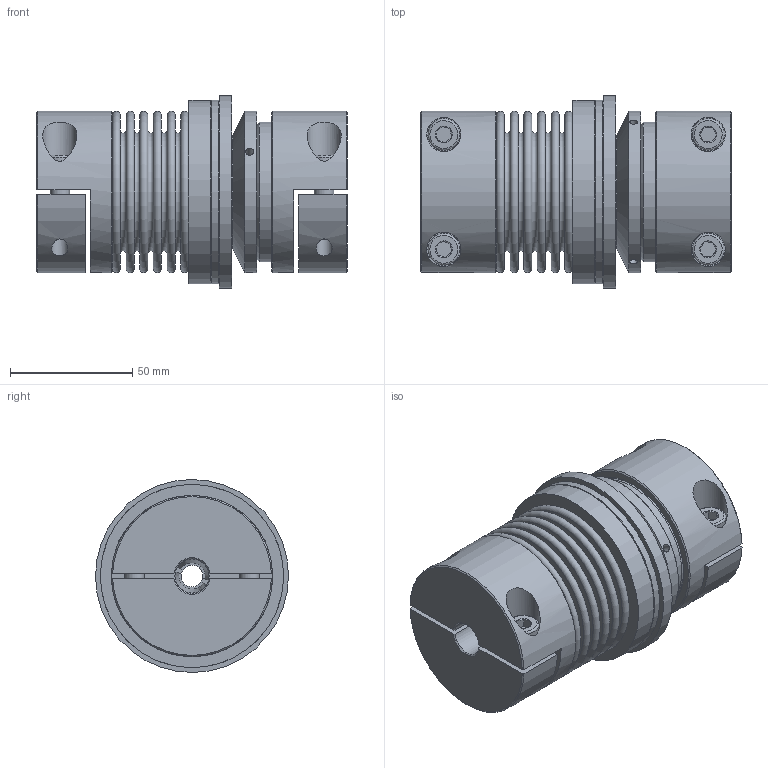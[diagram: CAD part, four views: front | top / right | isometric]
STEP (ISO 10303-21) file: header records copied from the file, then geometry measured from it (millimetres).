
FILE_DESCRIPTION( ( 'KBE1/14 - N7H8 - N14H7 - 98 Sh' ), '1' );
FILE_NAME( 'K:/Konstruktion/Fertigungszeichnungen/Überlastkupplung/KBK-B/KBK-BHH/60/KBK-BHH-60-127.stp', '14.12.2015', ( 'KBK-Antriebstechnik' ), ( 'KBK-Antriebstechnik' ), 'PSStep 16.0.42', 'Solid Edge St6', ' ' );
FILE_SCHEMA( ( 'AUTOMOTIVE_DESIGN { 1 0 10303 214 1 1 1 1 }' ) );
Length unit declared in the file: millimetre
Products named in the file (29): Druckring 60_1; inafag_61807-2rsr_94nni7wzvbwcn1eekm49s9gtt; inafag_61807-2rsr_94nni7wzvbwcn1eekm49s9gtt_01; inafag_61807-2rsr_94nni7wzvbwcn1eekm49s9gtt_02; inafag_61807-2rsr_94nni7wzvbwcn1eekm49s9gtt_03; inafag_61807-2rsr_94nni7wzvbwcn1eekm49s9gtt_04; inafag_61807-2rsr_94nni7wzvbwcn1eekm49s9gtt_05; inafag_61807-2rsr_94nni7wzvbwcn1eekm49s9gtt_06; inafag_61807-2rsr_94nni7wzvbwcn1eekm49s9gtt_07; inafag_61807-2rsr_94nni7wzvbwcn1eekm49s9gtt_08; inafag_61807-2rsr_94nni7wzvbwcn1eekm49s9gtt_09; KB4H8-60-oa4; KN4H-60-oa2; Spreiznabe KB8-60-oa3; Stellring 60_1; KBK L-P-60 Grundkörper_1-oa1; KBK L-P-60 Grundkörper_1-oa0; a_35_1; KBK-B-H-60-oa5; Flansch BK60; ISO EN DIN 4762 M8x20; Assem1; KN4H-60_1-oa6; BL60_Standard_0
Assembly tree (31 placements, depth 4):
  Assem1
    KN4H-60_1-oa6
    KN4H-60_1-oa6
    ISO EN DIN 4762 M8x20  x2
    BL60_Standard_0
    KBK-B-H-60-oa5
      Flansch BK60
      ISO EN DIN 4762 M8x20  x2
      KBK L-P-60 Grundkörper_1-oa1
        KBK L-P-60 Grundkörper_1-oa0
      Stellring 60_1
        Stellring 60_1
      Druckring 60_1
        Druckring 60_1
      a_35_1
        a_35_1
      KB4H8-60-oa4
        KN4H-60-oa2
        KN4H-60-oa2
        Spreiznabe KB8-60-oa3
      inafag_61807-2rsr_94nni7wzvbwcn1eekm49s9gtt
        inafag_61807-2rsr_94nni7wzvbwcn1eekm49s9gtt_01
        inafag_61807-2rsr_94nni7wzvbwcn1eekm49s9gtt_02
        inafag_61807-2rsr_94nni7wzvbwcn1eekm49s9gtt_03
        inafag_61807-2rsr_94nni7wzvbwcn1eekm49s9gtt_04
        inafag_61807-2rsr_94nni7wzvbwcn1eekm49s9gtt_05
        inafag_61807-2rsr_94nni7wzvbwcn1eekm49s9gtt_06
        inafag_61807-2rsr_94nni7wzvbwcn1eekm49s9gtt_07
        inafag_61807-2rsr_94nni7wzvbwcn1eekm49s9gtt_08
        inafag_61807-2rsr_94nni7wzvbwcn1eekm49s9gtt_09
Bounding box: 127.2 x 78.99 x 78.99 mm (x, y, z)
Volume: 309691.6 mm3; surface area: 159576.8 mm2
Topology: 24 solids, 24 shells, 351 faces, 706 edges, 449 vertices
Faces by surface type: plane 146, cylinder 105, cone 56, torus 40, sphere 4
Full cylindrical faces by diameter (mm): 2.5 x2, 3.242 x3, 4 x3, 4.2 x4, 6 x6, 6.647 x4, 7 x4, 8 x8, 8.5 x4, 9 x1, 13 x4, 14 x6, 15 x1, 25 x1, 33 x1, 35 x3, 39 x4, 39.705 x1, 42 x1, 42.995 x1, 43.7 x2, 44.3 x4, 46 x2, 46.5 x1, 47 x2, 50 x1, 56.3 x3, 57.3 x3, 57.4 x2, 61.3 x1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
Entity records: 10182 total; most frequent: CARTESIAN_POINT 2530, DIRECTION 1230, ORIENTED_EDGE 788, AXIS2_PLACEMENT_3D 569, EDGE_LOOP 506, EDGE_CURVE 394, FACE_OUTER_BOUND 383, VERTEX_POINT 357
